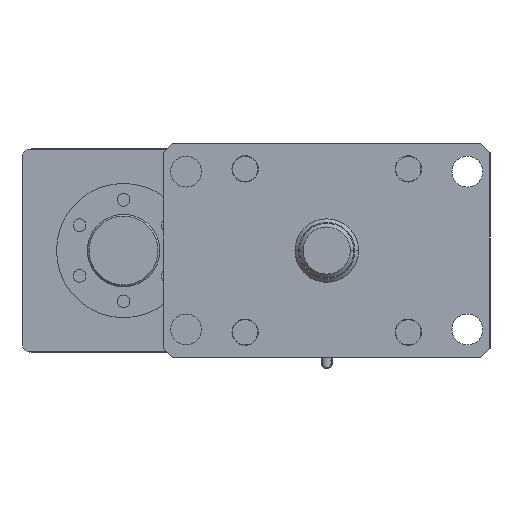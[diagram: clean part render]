
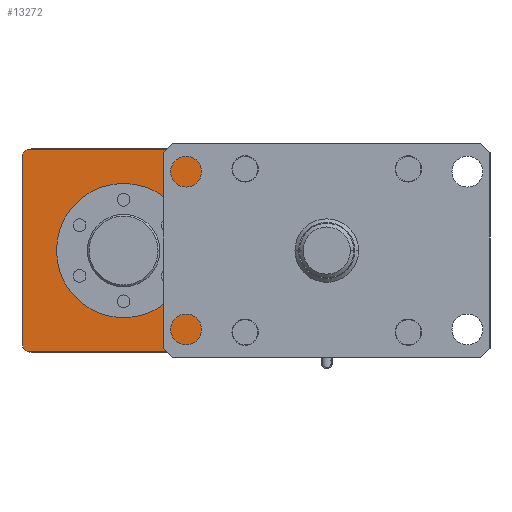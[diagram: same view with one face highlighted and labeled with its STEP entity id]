
A CAD part, front view. The second image highlights one B-rep face of the part: STEP entity #13272.
In plain terms, the highlighted planar face has unit normal (0, -1, 0).
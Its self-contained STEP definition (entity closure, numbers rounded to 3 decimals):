
#361 = EDGE_CURVE ( 'NONE', #4983, #2679, #2996, .T. ) ;
#368 = CARTESIAN_POINT ( 'NONE',  ( -56.2, 0., 56. ) ) ;
#1042 = CARTESIAN_POINT ( 'NONE',  ( -61., 0., 51. ) ) ;
#1541 = VERTEX_POINT ( 'NONE', #7611 ) ;
#1581 = DIRECTION ( 'NONE',  ( -1., 0., 0. ) ) ;
#1662 = ORIENTED_EDGE ( 'NONE', *, *, #7816, .T. ) ;
#2154 = CARTESIAN_POINT ( 'NONE',  ( -56.2, 0., -55.8 ) ) ;
#2299 = DIRECTION ( 'NONE',  ( -1., 0., 0. ) ) ;
#2514 = VERTEX_POINT ( 'NONE', #15892 ) ;
#2679 = VERTEX_POINT ( 'NONE', #10367 ) ;
#2754 = CARTESIAN_POINT ( 'NONE',  ( -168., 0., 56. ) ) ;
#2996 = CIRCLE ( 'NONE', #15675, 37. ) ;
#3706 = DIRECTION ( 'NONE',  ( -1., 0., 0. ) ) ;
#4468 = CARTESIAN_POINT ( 'NONE',  ( -168., 0., -55.8 ) ) ;
#4913 = EDGE_LOOP ( 'NONE', ( #8177, #8810 ) ) ;
#4919 = CARTESIAN_POINT ( 'NONE',  ( -112., 0., 0. ) ) ;
#4942 = CARTESIAN_POINT ( 'NONE',  ( -163., 0., 51. ) ) ;
#4983 = VERTEX_POINT ( 'NONE', #9314 ) ;
#5456 = AXIS2_PLACEMENT_3D ( 'NONE', #4942, #13655, #6206 ) ;
#5790 = DIRECTION ( 'NONE',  ( 1., 0., 0. ) ) ;
#6066 = VECTOR ( 'NONE', #8546, 1000. ) ;
#6187 = DIRECTION ( 'NONE',  ( -1., 0., 0. ) ) ;
#6206 = DIRECTION ( 'NONE',  ( -1., 0., 0. ) ) ;
#6317 = AXIS2_PLACEMENT_3D ( 'NONE', #6728, #15398, #7988 ) ;
#6342 = CARTESIAN_POINT ( 'NONE',  ( -112., 0., 0. ) ) ;
#6508 = PLANE ( 'NONE',  #15766 ) ;
#6728 = CARTESIAN_POINT ( 'NONE',  ( -163., 0., -51. ) ) ;
#6760 = CARTESIAN_POINT ( 'NONE',  ( -56.2, 0., 52.4 ) ) ;
#6778 = ORIENTED_EDGE ( 'NONE', *, *, #11671, .T. ) ;
#6891 = ORIENTED_EDGE ( 'NONE', *, *, #11068, .T. ) ;
#7474 = CARTESIAN_POINT ( 'NONE',  ( -164.4, 0., -55.8 ) ) ;
#7611 = CARTESIAN_POINT ( 'NONE',  ( -59.6, 0., 55.8 ) ) ;
#7614 = DIRECTION ( 'NONE',  ( -1., 0., 0. ) ) ;
#7816 = EDGE_CURVE ( 'NONE', #1541, #2514, #10101, .T. ) ;
#7824 = DIRECTION ( 'NONE',  ( 0., 0., 1. ) ) ;
#7988 = DIRECTION ( 'NONE',  ( -1., 0., 0. ) ) ;
#8177 = ORIENTED_EDGE ( 'NONE', *, *, #361, .F. ) ;
#8295 = EDGE_CURVE ( 'NONE', #2679, #4983, #15094, .T. ) ;
#8546 = DIRECTION ( 'NONE',  ( 0., 0., -1. ) ) ;
#8597 = CARTESIAN_POINT ( 'NONE',  ( -167.8, 0., 56. ) ) ;
#8810 = ORIENTED_EDGE ( 'NONE', *, *, #8295, .F. ) ;
#8897 = CARTESIAN_POINT ( 'NONE',  ( -167.8, 0., -52.4 ) ) ;
#8949 = AXIS2_PLACEMENT_3D ( 'NONE', #1042, #9768, #2299 ) ;
#9042 = DIRECTION ( 'NONE',  ( 0., 1., 0. ) ) ;
#9206 = VECTOR ( 'NONE', #5790, 1000. ) ;
#9314 = CARTESIAN_POINT ( 'NONE',  ( -112., 0., 37. ) ) ;
#9404 = FACE_OUTER_BOUND ( 'NONE', #9526, .T. ) ;
#9526 = EDGE_LOOP ( 'NONE', ( #9884, #6891, #1662, #6778, #11043, #12984, #15351 ) ) ;
#9768 = DIRECTION ( 'NONE',  ( 0., -1., 0. ) ) ;
#9801 = FACE_BOUND ( 'NONE', #4913, .T. ) ;
#9884 = ORIENTED_EDGE ( 'NONE', *, *, #13316, .T. ) ;
#10101 = LINE ( 'NONE', #11240, #12979 ) ;
#10367 = CARTESIAN_POINT ( 'NONE',  ( -112., 0., -37. ) ) ;
#10810 = CIRCLE ( 'NONE', #5456, 5. ) ;
#10906 = CARTESIAN_POINT ( 'NONE',  ( -167.8, 0., 52.4 ) ) ;
#11043 = ORIENTED_EDGE ( 'NONE', *, *, #12803, .T. ) ;
#11068 = EDGE_CURVE ( 'NONE', #15787, #1541, #12738, .T. ) ;
#11240 = CARTESIAN_POINT ( 'NONE',  ( -168., 0., 55.8 ) ) ;
#11671 = EDGE_CURVE ( 'NONE', #2514, #12127, #10810, .T. ) ;
#11691 = VERTEX_POINT ( 'NONE', #7474 ) ;
#12127 = VERTEX_POINT ( 'NONE', #10906 ) ;
#12339 = VERTEX_POINT ( 'NONE', #8897 ) ;
#12680 = VECTOR ( 'NONE', #7824, 1000. ) ;
#12692 = LINE ( 'NONE', #8597, #6066 ) ;
#12738 = CIRCLE ( 'NONE', #8949, 5. ) ;
#12803 = EDGE_CURVE ( 'NONE', #12127, #12339, #12692, .T. ) ;
#12979 = VECTOR ( 'NONE', #3706, 1000. ) ;
#12984 = ORIENTED_EDGE ( 'NONE', *, *, #13370, .T. ) ;
#13272 = ADVANCED_FACE ( 'NONE', ( #9404, #9801 ), #6508, .F. ) ;
#13316 = EDGE_CURVE ( 'NONE', #13575, #15787, #15573, .T. ) ;
#13370 = EDGE_CURVE ( 'NONE', #12339, #11691, #14802, .T. ) ;
#13528 = EDGE_CURVE ( 'NONE', #11691, #13575, #15751, .T. ) ;
#13575 = VERTEX_POINT ( 'NONE', #2154 ) ;
#13632 = DIRECTION ( 'NONE',  ( 0., -1., 0. ) ) ;
#13655 = DIRECTION ( 'NONE',  ( 0., -1., 0. ) ) ;
#14362 = AXIS2_PLACEMENT_3D ( 'NONE', #6342, #15037, #7614 ) ;
#14802 = CIRCLE ( 'NONE', #6317, 5. ) ;
#15037 = DIRECTION ( 'NONE',  ( 0., -1., 0. ) ) ;
#15094 = CIRCLE ( 'NONE', #14362, 37. ) ;
#15351 = ORIENTED_EDGE ( 'NONE', *, *, #13528, .T. ) ;
#15398 = DIRECTION ( 'NONE',  ( 0., -1., 0. ) ) ;
#15573 = LINE ( 'NONE', #368, #12680 ) ;
#15675 = AXIS2_PLACEMENT_3D ( 'NONE', #4919, #13632, #6187 ) ;
#15751 = LINE ( 'NONE', #4468, #9206 ) ;
#15766 = AXIS2_PLACEMENT_3D ( 'NONE', #2754, #9042, #1581 ) ;
#15787 = VERTEX_POINT ( 'NONE', #6760 ) ;
#15892 = CARTESIAN_POINT ( 'NONE',  ( -164.4, 0., 55.8 ) ) ;
